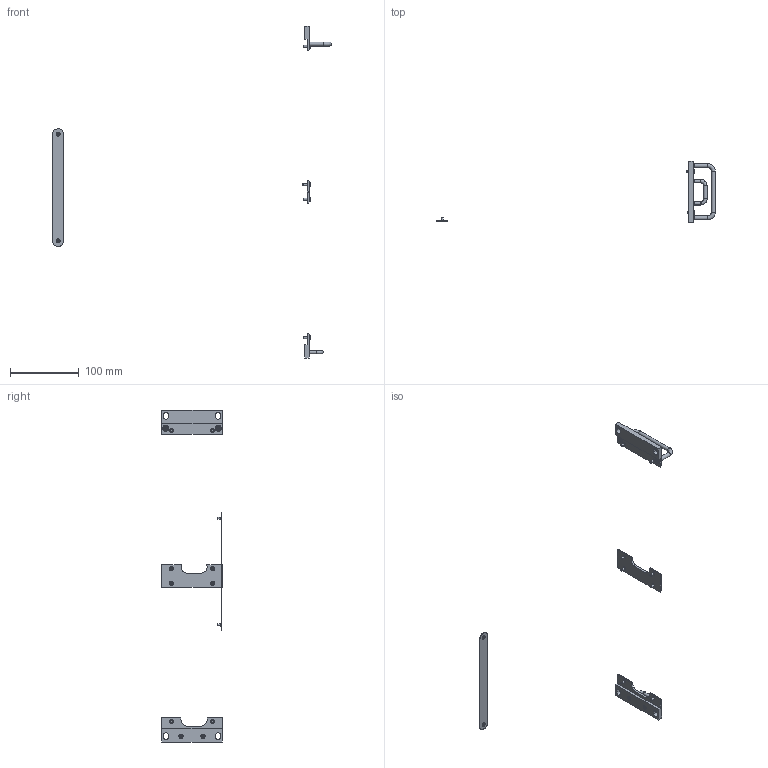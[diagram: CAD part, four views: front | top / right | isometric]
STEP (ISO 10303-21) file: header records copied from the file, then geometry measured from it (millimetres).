
FILE_DESCRIPTION(/* description */ (''),/* implementation_level */ '2;1');
FILE_NAME(/* name */ 'D:\SM800\options\RA19-SM800\presentation\RA19-2SM800-FPC- parts.stp',/* time_stamp */ '2014-11-20T16:31:15+01:00',/* author */ ('Simon'),/* organization */ (''),/* preprocessor_version */ 'ST-DEVELOPER v15.6',/* originating_system */ 'Autodesk Inventor 2015',/* authorisation */ '');
FILE_SCHEMA (('AUTOMOTIVE_DESIGN { 1 0 10303 214 3 1 1 }'));
Length unit declared in the file: millimetre
Products named in the file (1): RA19-2SM800-FPC-parts_Shrinkwrap_1
Bounding box: 405 x 88.1 x 482.5 mm (x, y, z)
Volume: 43432.3 mm3; surface area: 31593.5 mm2
Topology: 4 solids, 4 shells, 482 faces, 1046 edges, 618 vertices
Faces by surface type: plane 300, cylinder 80, cone 66, torus 36
Full cylindrical faces by diameter (mm): 2.459 x2, 2.5 x2, 2.85 x2, 3 x16, 3.2 x2, 3.5 x10, 4 x4, 4.2 x2, 4.5 x2, 5 x3, 5.5 x2, 6 x19
Entity records: 12166 total; most frequent: CARTESIAN_POINT 2263, DIRECTION 1956, ORIENTED_EDGE 1728, EDGE_CURVE 864, AXIS2_PLACEMENT_3D 777, EDGE_LOOP 684, VERTEX_POINT 580, STYLED_ITEM 486
